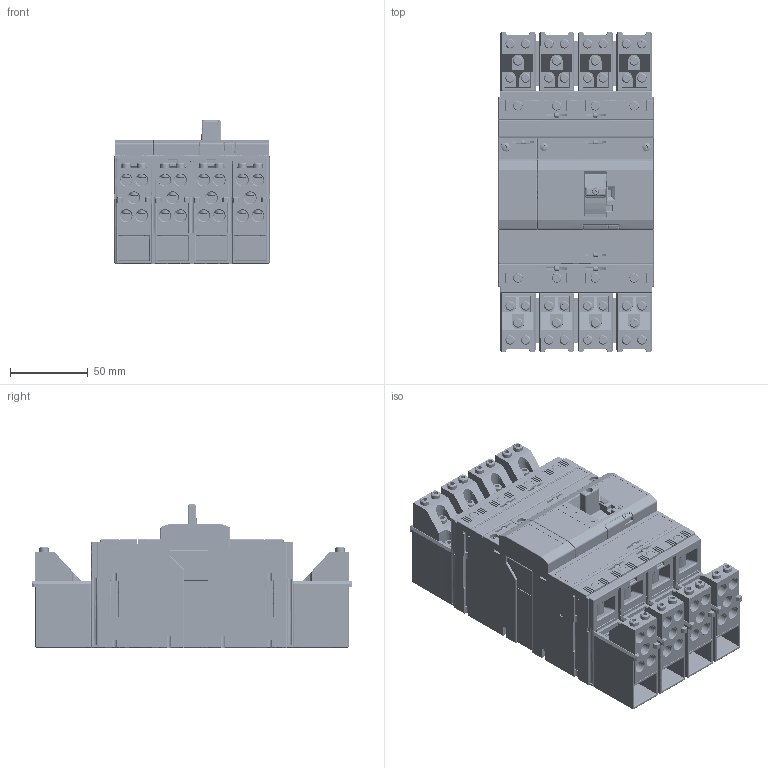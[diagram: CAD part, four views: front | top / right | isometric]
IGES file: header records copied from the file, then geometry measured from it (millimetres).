
Start section: SolidWorks IGES file using analytic representation for surfaces
Global section: file name: U:\14_RD\05_Technical_office\04_Office\Hrdinova\3D modely - IGES\Modeion\BC160NT405_406__CS-BC-B414.IGS; native system: SolidWorks 2011; preprocessor: SolidWorks 2011; author: adhrja3; date: 170615.141556; units: millimetre
Bounding box: 100 x 207 x 92.5 mm (x, y, z)
Surface area: 288324.8 mm2 (no closed solid volume)
Topology: 0 solids, 0 shells, 7735 faces, 66680 edges, 66588 vertices
Faces by surface type: bspline 4947, revolution 2788
